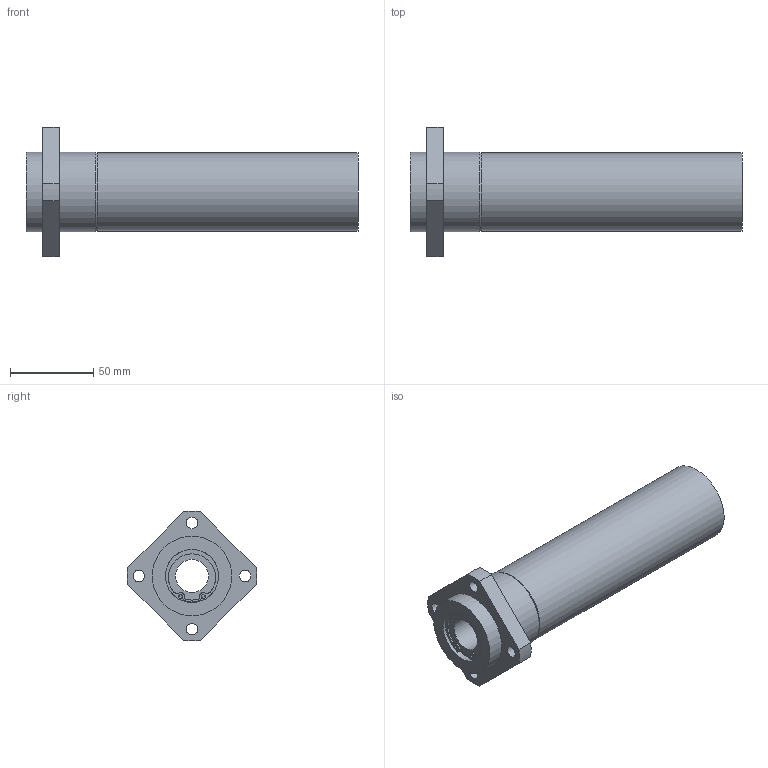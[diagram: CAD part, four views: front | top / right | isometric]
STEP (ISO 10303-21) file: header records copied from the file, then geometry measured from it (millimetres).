
FILE_DESCRIPTION((''),'2;1');
FILE_NAME('C:\Documents and Settings\土屋\My Documents\土屋移動用フォルダ\製品 (図面)\カタログ用3D\変換ファイル\OZAK_3D-CAD(STEP形式)\Part1.-Linear Bearings_ﾘﾆｱﾍﾞｱﾘﾝｸﾞ\09_Maintenance Free_ﾒｲﾝﾃﾅﾝｽﾌﾘｰ\L2017-09-22T14:00:12','2017-09-22T14:00:12',('y'),(''),'Autodesk Inventor 11','Autodesk Inventor 11','');
FILE_SCHEMA(('AUTOMOTIVE_DESIGN { 1 0 10303 214 1 1 1 1 }'));
Length unit declared in the file: millimetre
Products named in the file (1): LFWLB20BMF
Bounding box: 200 x 77.92 x 77.92 mm (x, y, z)
Volume: 301701.7 mm3; surface area: 55132.7 mm2
Topology: 1 solids, 7 shells, 97 faces, 229 edges, 144 vertices
Faces by surface type: bspline 34, cylinder 32, plane 28, torus 2, cone 1
Full cylindrical faces by diameter (mm): 2.5 x2, 7 x4, 20 x2, 29 x2, 30.3 x2, 32 x8, 47 x1, 48 x2
Entity records: 2809 total; most frequent: CARTESIAN_POINT 754, DIRECTION 432, ORIENTED_EDGE 352, AXIS2_PLACEMENT_3D 192, EDGE_CURVE 176, EDGE_LOOP 166, VERTEX_POINT 128, CIRCLE 128
